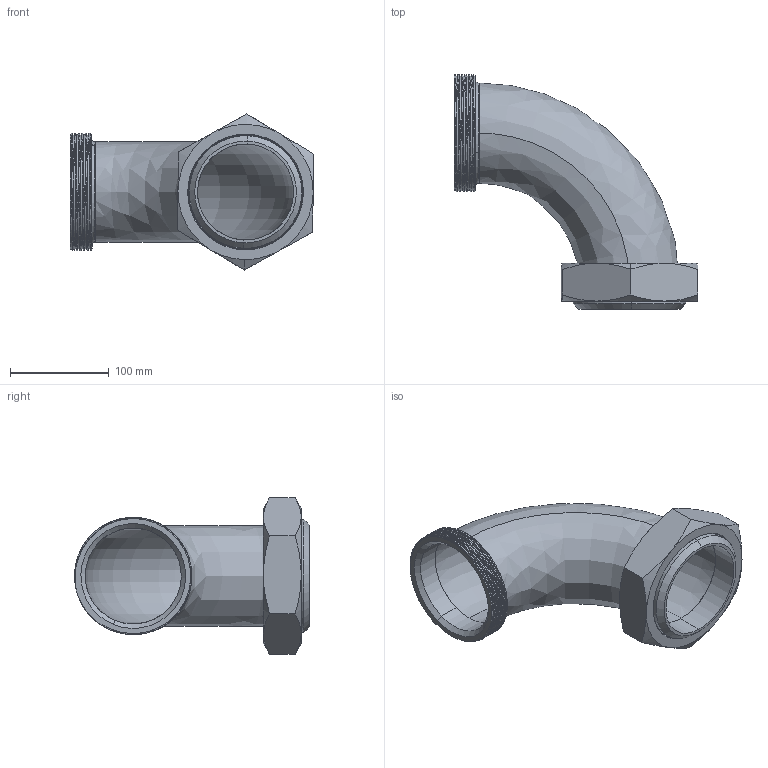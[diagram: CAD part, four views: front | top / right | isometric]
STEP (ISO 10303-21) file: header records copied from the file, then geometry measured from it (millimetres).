
FILE_DESCRIPTION (( 'STEP AP214' ), '1' );
FILE_NAME ('2F 4.0.STEP', '2025-06-13T14:31:52', ( '' ), ( '' ), 'SwSTEP 2.0', 'SolidWorks 2022', '' );
FILE_SCHEMA (( 'AUTOMOTIVE_DESIGN' ));
Length unit declared in the file: millimetre
Products named in the file (5): 2WCL4.0; 2F 4.0; 15TR4.0; 14PR4.0 REV1; 13H4.0
Assembly tree (4 placements, depth 2):
  2F 4.0
    2WCL4.0
    13H4.0
    14PR4.0 REV1
    15TR4.0
Bounding box: 246.99 x 238.02 x 158.36 mm (x, y, z)
Volume: 491332.7 mm3; surface area: 250255.6 mm2
Topology: 4 solids, 4 shells, 106 faces, 252 edges, 158 vertices
Faces by surface type: cylinder 47, cone 24, plane 22, bspline 11, torus 2
Entity records: 17999 total; most frequent: CARTESIAN_POINT 15591, ORIENTED_EDGE 504, DIRECTION 424, EDGE_CURVE 252, AXIS2_PLACEMENT_3D 171, VERTEX_POINT 158, EDGE_LOOP 118, ADVANCED_FACE 106
